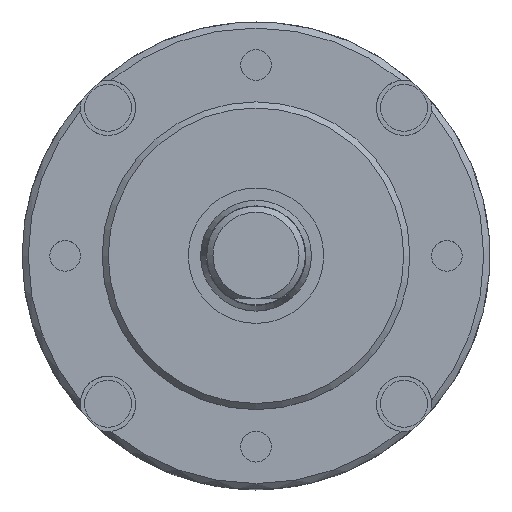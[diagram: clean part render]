
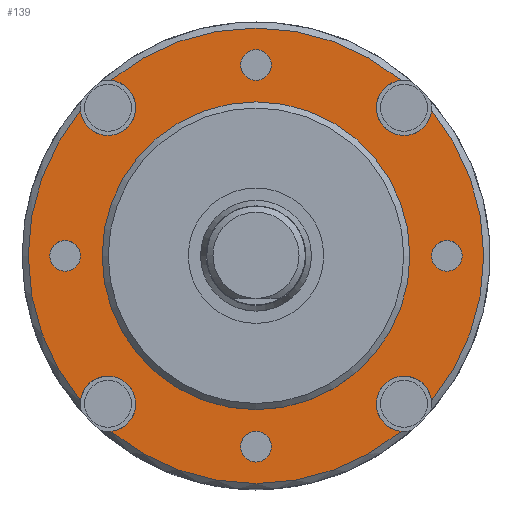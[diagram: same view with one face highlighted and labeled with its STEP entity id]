
A CAD part, top view. The second image highlights one B-rep face of the part: STEP entity #139.
In plain terms, the highlighted planar face has unit normal (0, 0, 1).
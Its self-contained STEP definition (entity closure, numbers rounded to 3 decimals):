
#105=PLANE('',#901);
#139=ADVANCED_FACE('',(#239,#240,#241,#242,#243,#244),#105,.T.);
#239=FACE_BOUND('',#335,.T.);
#240=FACE_BOUND('',#336,.T.);
#241=FACE_BOUND('',#337,.T.);
#242=FACE_BOUND('',#338,.T.);
#243=FACE_BOUND('',#339,.T.);
#244=FACE_BOUND('',#340,.T.);
#335=EDGE_LOOP('',(#465));
#336=EDGE_LOOP('',(#466));
#337=EDGE_LOOP('',(#467));
#338=EDGE_LOOP('',(#468));
#339=EDGE_LOOP('',(#469,#470,#471,#472,#473,#474,#475,#476));
#340=EDGE_LOOP('',(#477));
#465=ORIENTED_EDGE('',*,*,#727,.T.);
#466=ORIENTED_EDGE('',*,*,#728,.T.);
#467=ORIENTED_EDGE('',*,*,#729,.T.);
#468=ORIENTED_EDGE('',*,*,#730,.T.);
#469=ORIENTED_EDGE('',*,*,#731,.F.);
#470=ORIENTED_EDGE('',*,*,#732,.T.);
#471=ORIENTED_EDGE('',*,*,#733,.F.);
#472=ORIENTED_EDGE('',*,*,#734,.T.);
#473=ORIENTED_EDGE('',*,*,#735,.F.);
#474=ORIENTED_EDGE('',*,*,#736,.T.);
#475=ORIENTED_EDGE('',*,*,#737,.F.);
#476=ORIENTED_EDGE('',*,*,#738,.T.);
#477=ORIENTED_EDGE('',*,*,#726,.T.);
#648=VERTEX_POINT('',#1347);
#649=VERTEX_POINT('',#1350);
#650=VERTEX_POINT('',#1352);
#651=VERTEX_POINT('',#1354);
#652=VERTEX_POINT('',#1356);
#653=VERTEX_POINT('',#1358);
#654=VERTEX_POINT('',#1359);
#655=VERTEX_POINT('',#1361);
#656=VERTEX_POINT('',#1363);
#657=VERTEX_POINT('',#1365);
#658=VERTEX_POINT('',#1367);
#659=VERTEX_POINT('',#1369);
#660=VERTEX_POINT('',#1371);
#726=EDGE_CURVE('',#648,#648,#810,.T.);
#727=EDGE_CURVE('',#649,#649,#811,.T.);
#728=EDGE_CURVE('',#650,#650,#812,.T.);
#729=EDGE_CURVE('',#651,#651,#813,.T.);
#730=EDGE_CURVE('',#652,#652,#814,.T.);
#731=EDGE_CURVE('',#653,#654,#815,.T.);
#732=EDGE_CURVE('',#653,#655,#816,.T.);
#733=EDGE_CURVE('',#656,#655,#817,.T.);
#734=EDGE_CURVE('',#656,#657,#818,.T.);
#735=EDGE_CURVE('',#658,#657,#819,.T.);
#736=EDGE_CURVE('',#658,#659,#820,.T.);
#737=EDGE_CURVE('',#660,#659,#821,.T.);
#738=EDGE_CURVE('',#660,#654,#822,.T.);
#810=CIRCLE('',#887,12.5);
#811=CIRCLE('',#889,1.25);
#812=CIRCLE('',#890,1.25);
#813=CIRCLE('',#891,1.25);
#814=CIRCLE('',#892,1.25);
#815=CIRCLE('',#893,2.25);
#816=CIRCLE('',#894,18.5);
#817=CIRCLE('',#895,2.25);
#818=CIRCLE('',#896,18.5);
#819=CIRCLE('',#897,2.25);
#820=CIRCLE('',#898,18.5);
#821=CIRCLE('',#899,2.25);
#822=CIRCLE('',#900,18.5);
#887=AXIS2_PLACEMENT_3D('',#1346,#1057,#1058);
#889=AXIS2_PLACEMENT_3D('',#1349,#1061,#1062);
#890=AXIS2_PLACEMENT_3D('',#1351,#1063,#1064);
#891=AXIS2_PLACEMENT_3D('',#1353,#1065,#1066);
#892=AXIS2_PLACEMENT_3D('',#1355,#1067,#1068);
#893=AXIS2_PLACEMENT_3D('',#1357,#1069,#1070);
#894=AXIS2_PLACEMENT_3D('',#1360,#1071,#1072);
#895=AXIS2_PLACEMENT_3D('',#1362,#1073,#1074);
#896=AXIS2_PLACEMENT_3D('',#1364,#1075,#1076);
#897=AXIS2_PLACEMENT_3D('',#1366,#1077,#1078);
#898=AXIS2_PLACEMENT_3D('',#1368,#1079,#1080);
#899=AXIS2_PLACEMENT_3D('',#1370,#1081,#1082);
#900=AXIS2_PLACEMENT_3D('',#1372,#1083,#1084);
#901=AXIS2_PLACEMENT_3D('',#1373,#1085,#1086);
#1057=DIRECTION('',(0.,0.,-1.));
#1058=DIRECTION('',(1.,0.,0.));
#1061=DIRECTION('',(0.,0.,-1.));
#1062=DIRECTION('',(0.,1.,0.));
#1063=DIRECTION('',(0.,0.,-1.));
#1064=DIRECTION('',(1.,0.,0.));
#1065=DIRECTION('',(0.,0.,-1.));
#1066=DIRECTION('',(0.,-1.,0.));
#1067=DIRECTION('',(0.,0.,-1.));
#1068=DIRECTION('',(-1.,0.,0.));
#1069=DIRECTION('',(0.,0.,1.));
#1070=DIRECTION('',(-1.,0.,0.));
#1071=DIRECTION('',(0.,0.,1.));
#1072=DIRECTION('',(1.,0.,0.));
#1073=DIRECTION('',(0.,0.,1.));
#1074=DIRECTION('',(0.,-1.,0.));
#1075=DIRECTION('',(0.,0.,1.));
#1076=DIRECTION('',(1.,0.,0.));
#1077=DIRECTION('',(0.,0.,1.));
#1078=DIRECTION('',(1.,0.,0.));
#1079=DIRECTION('',(0.,0.,1.));
#1080=DIRECTION('',(1.,0.,0.));
#1081=DIRECTION('',(0.,0.,1.));
#1082=DIRECTION('',(0.,1.,0.));
#1083=DIRECTION('',(0.,0.,1.));
#1084=DIRECTION('',(1.,0.,0.));
#1085=DIRECTION('',(0.,0.,1.));
#1086=DIRECTION('',(1.,0.,0.));
#1346=CARTESIAN_POINT('',(0.,0.,0.));
#1347=CARTESIAN_POINT('',(12.5,0.,0.));
#1349=CARTESIAN_POINT('',(15.5,0.,0.));
#1350=CARTESIAN_POINT('',(15.5,1.25,0.));
#1351=CARTESIAN_POINT('',(0.,-15.5,0.));
#1352=CARTESIAN_POINT('',(1.25,-15.5,0.));
#1353=CARTESIAN_POINT('',(-15.5,0.,0.));
#1354=CARTESIAN_POINT('',(-15.5,-1.25,0.));
#1355=CARTESIAN_POINT('',(0.,15.5,0.));
#1356=CARTESIAN_POINT('',(-1.25,15.5,0.));
#1357=CARTESIAN_POINT('',(12.021,-12.021,0.));
#1358=CARTESIAN_POINT('',(14.259,-11.787,0.));
#1359=CARTESIAN_POINT('',(11.787,-14.259,0.));
#1360=CARTESIAN_POINT('',(0.,0.,0.));
#1361=CARTESIAN_POINT('',(14.259,11.787,0.));
#1362=CARTESIAN_POINT('',(12.021,12.021,0.));
#1363=CARTESIAN_POINT('',(11.787,14.259,0.));
#1364=CARTESIAN_POINT('',(0.,0.,0.));
#1365=CARTESIAN_POINT('',(-11.787,14.259,0.));
#1366=CARTESIAN_POINT('',(-12.021,12.021,0.));
#1367=CARTESIAN_POINT('',(-14.259,11.787,0.));
#1368=CARTESIAN_POINT('',(0.,0.,0.));
#1369=CARTESIAN_POINT('',(-14.259,-11.787,0.));
#1370=CARTESIAN_POINT('',(-12.021,-12.021,0.));
#1371=CARTESIAN_POINT('',(-11.787,-14.259,0.));
#1372=CARTESIAN_POINT('',(0.,0.,0.));
#1373=CARTESIAN_POINT('',(0.,0.,0.));
